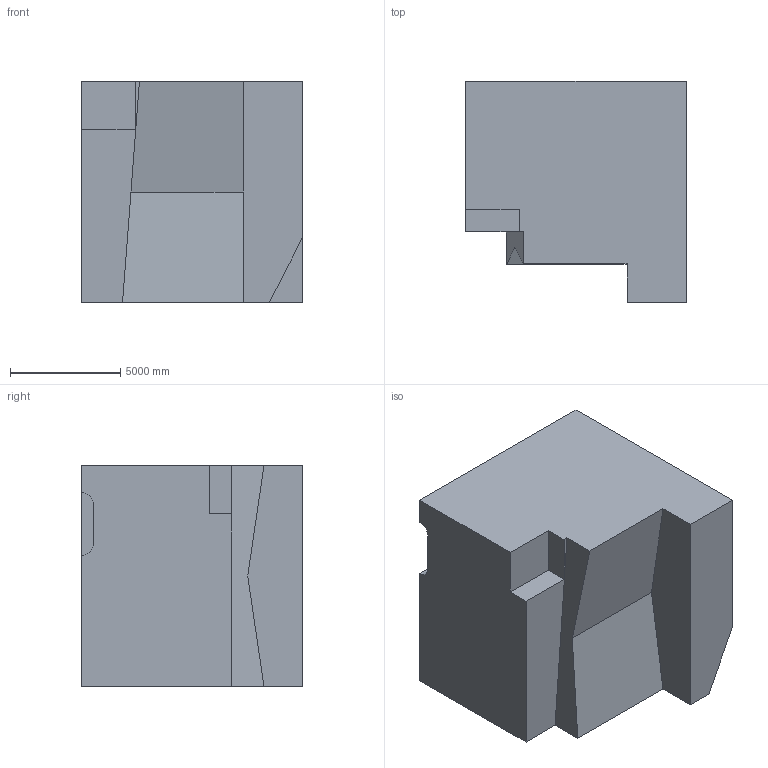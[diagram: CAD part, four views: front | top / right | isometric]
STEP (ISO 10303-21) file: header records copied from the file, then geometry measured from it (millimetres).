
FILE_DESCRIPTION (( 'STEP AP203' ), '1' );
FILE_NAME ('115.STEP', '2022-08-31T11:40:13', ( 'user' ), ( '' ), 'SwSTEP 2.0', 'SolidWorks 2021', '' );
FILE_SCHEMA (( 'CONFIG_CONTROL_DESIGN' ));
Length unit declared in the file: centimetre
Products named in the file (1): 115
Bounding box: 10000 x 10000 x 10000 mm (x, y, z)
Volume: 800629076929.7 mm3; surface area: 574539985 mm2
Topology: 1 solids, 1 shells, 26 faces, 66 edges, 44 vertices
Faces by surface type: plane 20, cylinder 6
Entity records: 859 total; most frequent: CARTESIAN_POINT 137, ORIENTED_EDGE 132, DIRECTION 132, EDGE_CURVE 66, VECTOR 54, LINE 54, VERTEX_POINT 44, AXIS2_PLACEMENT_3D 39
